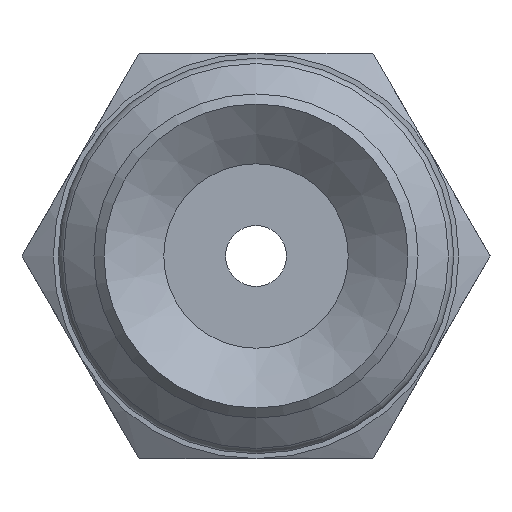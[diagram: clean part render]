
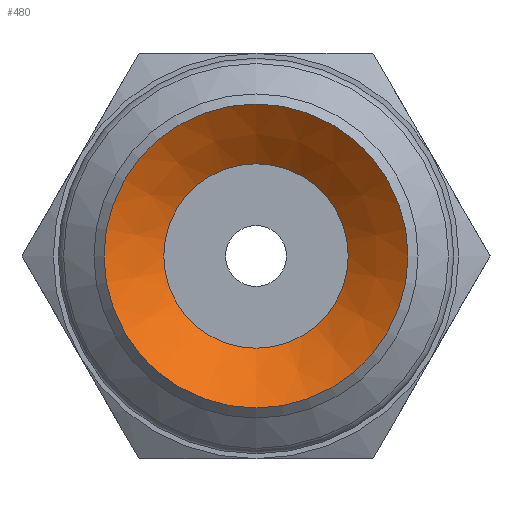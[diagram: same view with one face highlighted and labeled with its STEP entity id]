
A CAD part, front view. The second image highlights one B-rep face of the part: STEP entity #480.
In plain terms, the highlighted conical face has half-angle 52 degrees and reference radius 1.82 mm.
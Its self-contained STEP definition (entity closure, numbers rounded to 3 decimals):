
#480=ADVANCED_FACE('',(#695,#696),#697,.F.);
#695=FACE_BOUND('',#935,.T.);
#696=FACE_OUTER_BOUND('',#936,.T.);
#697=CONICAL_SURFACE('',#937,1.82,0.908);
#935=EDGE_LOOP('',(#1517));
#936=EDGE_LOOP('',(#1518));
#937=AXIS2_PLACEMENT_3D('',#1519,#1520,#1521);
#1517=ORIENTED_EDGE('',*,*,#1734,.F.);
#1518=ORIENTED_EDGE('',*,*,#1735,.T.);
#1519=CARTESIAN_POINT('',(0.0,6.889,0.0));
#1520=DIRECTION('',(-0.0,-1.0,0.));
#1521=DIRECTION('',(0.0,0.,-1.0));
#1734=EDGE_CURVE('',#1997,#1997,#1998,.T.);
#1735=EDGE_CURVE('',#1999,#1999,#2000,.T.);
#1997=VERTEX_POINT('',#2569);
#1998=CIRCLE('',#2570,1.82);
#1999=VERTEX_POINT('',#2571);
#2000=CIRCLE('',#2572,3.0);
#2569=CARTESIAN_POINT('',(0.0,6.889,-1.82));
#2570=AXIS2_PLACEMENT_3D('',#2822,#2823,#2824);
#2571=CARTESIAN_POINT('',(0.0,5.967,-3.0));
#2572=AXIS2_PLACEMENT_3D('',#2825,#2826,#2827);
#2822=CARTESIAN_POINT('',(0.0,6.889,0.0));
#2823=DIRECTION('',(0.0,-1.0,0.));
#2824=DIRECTION('',(0.0,0.,-1.0));
#2825=CARTESIAN_POINT('',(0.0,5.967,0.0));
#2826=DIRECTION('',(0.0,-1.0,0.));
#2827=DIRECTION('',(0.0,0.,-1.0));
